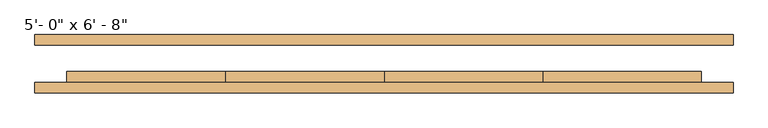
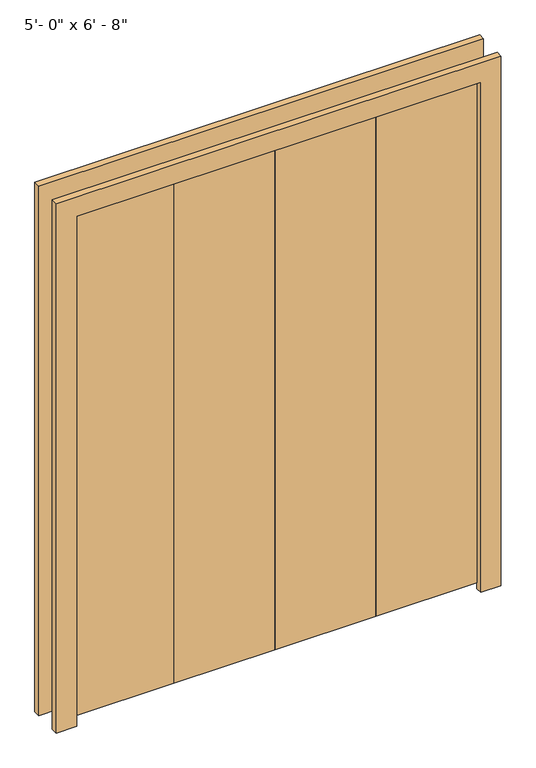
"""IFC4 building model written with IfcOpenShell, lengths in millimetres: door geometry."""

from ifc_helpers import new_model, si_unit, frame, origin, place, context, project, spatial, polyline, outline, extrude, source, transform, mapped, element, save


def door_37c67c65(model_context):
    return source(origin(), model_context, "Body", "SweptSolid", [
        extrude(outline(polyline([(2032.0, -762.0), (2032.0, 762.0), (0.0, 762.0), (0.0, 838.2), (2108.2, 838.2), (2108.2, -838.2), (0.0, -838.2), (0.0, -762.0), (2032.0, -762.0)])), frame((0.0, 60.4124703, 0.0), z_axis=(0.0, 1.0, 0.0), x_axis=(0.0, 0.0, 1.0)), (0.0, 0.0, 1.0), 25.4),
        extrude(outline(polyline([(2032.0, -762.0), (2032.0, 762.0), (0.0, 762.0), (0.0, 838.2), (2108.2, 838.2), (2108.2, -838.2), (0.0, -838.2), (0.0, -762.0), (2032.0, -762.0)])), frame((0.0, -53.8875297, 0.0), z_axis=(0.0, 1.0, 0.0), x_axis=(0.0, 0.0, 1.0)), (0.0, 0.0, 1.0), 25.4),
        extrude(outline(polyline([(-762.0, -28.4875297), (-762.0, -3.0875297), (-381.0, -3.0875297), (-381.0, -28.4875297), (-762.0, -28.4875297)])), frame((0.0, 0.0, 22.225), z_axis=(0.0, 0.0, 1.0), x_axis=(1.0, 0.0, 0.0)), (0.0, 0.0, 1.0), 1990.725),
        extrude(outline(polyline([(-381.0, -28.4875297), (-381.0, -3.0875297), (0.0, -3.0875297), (0.0, -28.4875297), (-381.0, -28.4875297)])), frame((0.0, 0.0, 22.225), z_axis=(0.0, 0.0, 1.0), x_axis=(1.0, 0.0, 0.0)), (0.0, 0.0, 1.0), 1990.725),
        extrude(outline(polyline([(0.0, -28.4875297), (0.0, -3.0875297), (381.0, -3.0875297), (381.0, -28.4875297), (0.0, -28.4875297)])), frame((0.0, 0.0, 22.225), z_axis=(0.0, 0.0, 1.0), x_axis=(1.0, 0.0, 0.0)), (0.0, 0.0, 1.0), 1990.725),
        extrude(outline(polyline([(381.0, -28.4875297), (381.0, -3.0875297), (762.0, -3.0875297), (762.0, -28.4875297), (381.0, -28.4875297)])), frame((0.0, 0.0, 22.225), z_axis=(0.0, 0.0, 1.0), x_axis=(1.0, 0.0, 0.0)), (0.0, 0.0, 1.0), 1990.725),
    ])


if __name__ == "__main__":
    model = new_model("IFC4")
    model_context = context("Model", 3, world=origin())
    ifc_project = project(units=[si_unit("LENGTHUNIT", "METRE", prefix="MILLI")], contexts=[model_context])
    site = spatial("IfcSite", under=ifc_project)
    building = spatial("IfcBuilding", under=site)
    placement = place(None, origin())
    door_shape = door_37c67c65(model_context)
    element("IfcDoor", 1, ObjectType="Door-Bifold 4-Panel Flush SlimFold_Dunbarton : 5'- 0\" x 6' - 8\"", at=placement, inside=building, context=model_context, shape_type="MappedRepresentation", body=[
        mapped(door_shape, transform((0.0, 0.0, 0.0), x_axis=(1.0, 0.0, 0.0), y_axis=(0.0, 1.0, 0.0), z_axis=(0.0, 0.0, 1.0))),
    ])
    save(model, "model.ifc")
